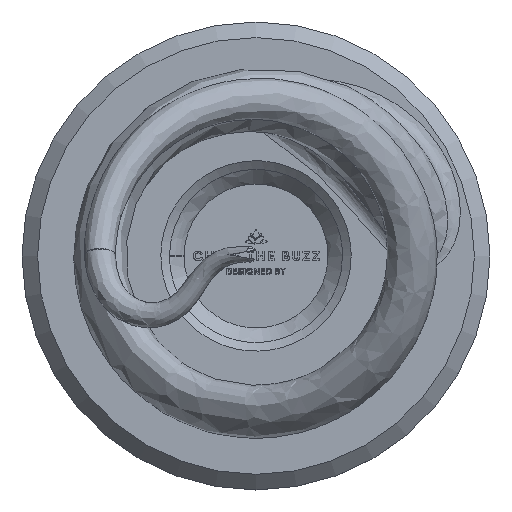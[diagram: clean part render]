
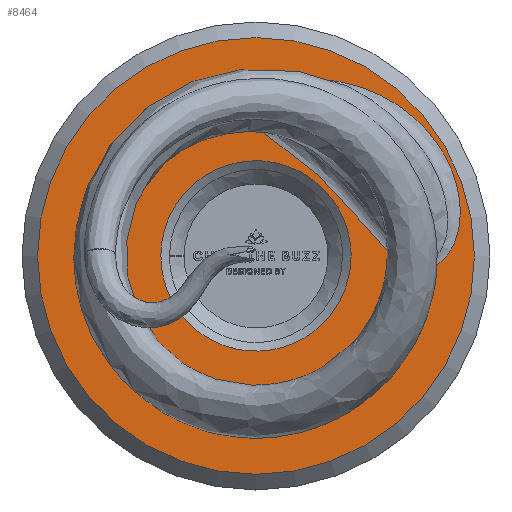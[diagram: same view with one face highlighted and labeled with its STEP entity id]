
A CAD part, top view. The second image highlights one B-rep face of the part: STEP entity #8464.
In plain terms, the highlighted planar face has unit normal (0, 0, 1).
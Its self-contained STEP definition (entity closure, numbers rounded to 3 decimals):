
#18=CIRCLE('',#8750,70.);
#30=FACE_BOUND('',#3410,.T.);
#31=FACE_BOUND('',#3411,.T.);
#313=PLANE('',#8749);
#2950=FACE_OUTER_BOUND('',#3409,.T.);
#3409=EDGE_LOOP('',(#7587));
#3410=EDGE_LOOP('',(#7588));
#3411=EDGE_LOOP('',(#7589));
#3463=B_SPLINE_CURVE_WITH_KNOTS('',3,(#15421,#15422,#15423,#15424,#15425,
#15426,#15427,#15428,#15429,#15430,#15431,#15432,#15433,#15434,#15435,#15436,
#15437,#15438,#15439,#15440,#15441,#15442,#15443,#15444,#15445,#15446,#15447,
#15448,#15449,#15450,#15451,#15452,#15453,#15454,#15455,#15456,#15457,#15458,
#15459,#15460,#15461,#15462,#15463,#15464,#15465,#15466,#15467,#15468,#15469,
#15470,#15471,#15472,#15473,#15474,#15475,#15476),.UNSPECIFIED.,.T.,.F.,
(4,1,1,1,1,1,1,1,1,1,1,1,1,1,1,1,1,1,2,1,1,1,2,1,1,1,1,1,1,1,1,1,1,1,1,
1,1,1,1,1,1,1,1,2,1,1,1,2,1,4),(-14.851,-14.51,-14.169,
-13.827,-13.486,-13.315,-13.144,
-12.974,-12.803,-12.632,-12.461,
-12.12,-11.779,-11.437,-11.096,
-10.754,-10.413,-9.73,-9.389,
-8.558,-7.726,-7.311,-6.064,
-5.571,-5.078,-4.832,-4.585,
-4.339,-4.216,-4.093,-3.969,
-3.908,-3.846,-3.784,-3.723,
-3.661,-3.6,-3.476,-3.353,
-3.23,-3.107,-2.86,-2.614,
-2.121,-1.66,-1.198,-0.737,
-0.275,0.107,0.488),.UNSPECIFIED.);
#3470=B_SPLINE_CURVE_WITH_KNOTS('',3,(#16305,#16306,#16307,#16308,#16309,
#16310,#16311,#16312,#16313,#16314,#16315,#16316,#16317,#16318,#16319,#16320,
#16321,#16322,#16323,#16324,#16325,#16326,#16327,#16328,#16329,#16330,#16331,
#16332,#16333,#16334,#16335,#16336,#16337,#16338,#16339,#16340,#16341,#16342,
#16343),.UNSPECIFIED.,.T.,.F.,(4,2,3,2,2,2,2,2,2,2,2,2,2,2,2,2,2,2,4),(17.978,
18.546,19.221,20.412,21.604,22.795,
23.987,25.178,26.369,27.561,28.752,
29.944,31.135,32.327,33.518,34.71,
35.901,37.092,37.199),.UNSPECIFIED.);
#4293=VERTEX_POINT('',#15419);
#4298=VERTEX_POINT('',#16302);
#4299=VERTEX_POINT('',#16304);
#5509=EDGE_CURVE('',#4293,#4293,#3463,.T.);
#5516=EDGE_CURVE('',#4298,#4298,#18,.T.);
#5517=EDGE_CURVE('',#4299,#4299,#3470,.T.);
#7587=ORIENTED_EDGE('',*,*,#5516,.F.);
#7588=ORIENTED_EDGE('',*,*,#5517,.T.);
#7589=ORIENTED_EDGE('',*,*,#5509,.F.);
#8464=ADVANCED_FACE('',(#2950,#30,#31),#313,.T.);
#8749=AXIS2_PLACEMENT_3D('',#16301,#10096,#10097);
#8750=AXIS2_PLACEMENT_3D('',#16303,#10098,#10099);
#10096=DIRECTION('center_axis',(0.,0.,1.));
#10097=DIRECTION('ref_axis',(1.,0.,0.));
#10098=DIRECTION('center_axis',(0.,0.,-1.));
#10099=DIRECTION('ref_axis',(1.,0.,0.));
#15419=CARTESIAN_POINT('',(35.425,9.229,10.));
#15421=CARTESIAN_POINT('Ctrl Pts',(35.425,9.229,10.));
#15422=CARTESIAN_POINT('Ctrl Pts',(36.344,8.115,10.));
#15423=CARTESIAN_POINT('Ctrl Pts',(38.18,5.893,10.));
#15424=CARTESIAN_POINT('Ctrl Pts',(41.03,2.657,10.));
#15425=CARTESIAN_POINT('Ctrl Pts',(44.142,-0.364,
10.));
#15426=CARTESIAN_POINT('Ctrl Pts',(47.112,-2.46,10.));
#15427=CARTESIAN_POINT('Ctrl Pts',(49.779,-3.597,10.));
#15428=CARTESIAN_POINT('Ctrl Pts',(51.903,-4.074,10.));
#15429=CARTESIAN_POINT('Ctrl Pts',(54.084,-4.086,10.));
#15430=CARTESIAN_POINT('Ctrl Pts',(56.209,-3.595,10.));
#15431=CARTESIAN_POINT('Ctrl Pts',(58.169,-2.643,10.));
#15432=CARTESIAN_POINT('Ctrl Pts',(60.473,-0.877,
10.));
#15433=CARTESIAN_POINT('Ctrl Pts',(62.704,2.013,10.));
#15434=CARTESIAN_POINT('Ctrl Pts',(64.419,6.018,10.));
#15435=CARTESIAN_POINT('Ctrl Pts',(65.327,10.271,10.));
#15436=CARTESIAN_POINT('Ctrl Pts',(65.546,14.61,10.));
#15437=CARTESIAN_POINT('Ctrl Pts',(65.17,18.934,10.));
#15438=CARTESIAN_POINT('Ctrl Pts',(63.963,24.595,10.));
#15439=CARTESIAN_POINT('Ctrl Pts',(61.812,29.993,10.));
#15440=CARTESIAN_POINT('Ctrl Pts',(59.616,33.731,10.));
#15441=CARTESIAN_POINT('Ctrl Pts',(56.896,37.881,10.));
#15442=CARTESIAN_POINT('Ctrl Pts',(52.341,43.297,10.));
#15443=CARTESIAN_POINT('Ctrl Pts',(45.307,48.654,10.));
#15444=CARTESIAN_POINT('Ctrl Pts',(36.004,53.651,10.));
#15445=CARTESIAN_POINT('Ctrl Pts',(29.174,55.665,10.));
#15446=CARTESIAN_POINT('Ctrl Pts',(21.867,56.553,10.));
#15447=CARTESIAN_POINT('Ctrl Pts',(17.695,56.778,10.));
#15448=CARTESIAN_POINT('Ctrl Pts',(12.487,56.287,10.));
#15449=CARTESIAN_POINT('Ctrl Pts',(8.424,55.335,10.));
#15450=CARTESIAN_POINT('Ctrl Pts',(5.469,54.295,10.));
#15451=CARTESIAN_POINT('Ctrl Pts',(3.142,53.103,10.));
#15452=CARTESIAN_POINT('Ctrl Pts',(1.438,51.896,10.));
#15453=CARTESIAN_POINT('Ctrl Pts',(0.278,50.843,10.));
#15454=CARTESIAN_POINT('Ctrl Pts',(-0.543,49.823,10.));
#15455=CARTESIAN_POINT('Ctrl Pts',(-1.063,48.918,10.));
#15456=CARTESIAN_POINT('Ctrl Pts',(-1.368,48.196,10.));
#15457=CARTESIAN_POINT('Ctrl Pts',(-1.573,47.44,10.));
#15458=CARTESIAN_POINT('Ctrl Pts',(-1.666,46.661,10.));
#15459=CARTESIAN_POINT('Ctrl Pts',(-1.64,45.878,10.));
#15460=CARTESIAN_POINT('Ctrl Pts',(-1.454,44.848,10.));
#15461=CARTESIAN_POINT('Ctrl Pts',(-0.972,43.629,
10.));
#15462=CARTESIAN_POINT('Ctrl Pts',(-0.128,42.307,10.));
#15463=CARTESIAN_POINT('Ctrl Pts',(0.877,41.106,10.));
#15464=CARTESIAN_POINT('Ctrl Pts',(2.352,39.631,10.));
#15465=CARTESIAN_POINT('Ctrl Pts',(4.346,37.955,10.));
#15466=CARTESIAN_POINT('Ctrl Pts',(7.672,35.437,10.));
#15467=CARTESIAN_POINT('Ctrl Pts',(10.21,33.612,10.));
#15468=CARTESIAN_POINT('Ctrl Pts',(13.447,31.199,10.));
#15469=CARTESIAN_POINT('Ctrl Pts',(16.544,28.82,10.));
#15470=CARTESIAN_POINT('Ctrl Pts',(20.997,25.013,10.));
#15471=CARTESIAN_POINT('Ctrl Pts',(25.217,20.948,10.));
#15472=CARTESIAN_POINT('Ctrl Pts',(27.873,18.084,10.));
#15473=CARTESIAN_POINT('Ctrl Pts',(30.244,15.419,10.));
#15474=CARTESIAN_POINT('Ctrl Pts',(32.346,12.97,10.));
#15475=CARTESIAN_POINT('Ctrl Pts',(34.398,10.475,10.));
#15476=CARTESIAN_POINT('Ctrl Pts',(35.425,9.229,10.));
#16301=CARTESIAN_POINT('Origin',(0.,0.,10.));
#16302=CARTESIAN_POINT('',(-70.,0.,10.));
#16303=CARTESIAN_POINT('Origin',(0.,0.,10.));
#16304=CARTESIAN_POINT('',(30.499,0.,10.));
#16305=CARTESIAN_POINT('Ctrl Pts',(30.499,0.,
10.));
#16306=CARTESIAN_POINT('Ctrl Pts',(30.499,-1.892,10.));
#16307=CARTESIAN_POINT('Ctrl Pts',(30.323,-3.781,10.));
#16308=CARTESIAN_POINT('Ctrl Pts',(29.557,-7.852,10.));
#16309=CARTESIAN_POINT('Ctrl Pts',(28.898,-10.01,10.));
#16310=CARTESIAN_POINT('Ctrl Pts',(28.008,-12.074,10.));
#16311=CARTESIAN_POINT('Ctrl Pts',(26.435,-15.721,10.));
#16312=CARTESIAN_POINT('Ctrl Pts',(24.166,-19.026,10.));
#16313=CARTESIAN_POINT('Ctrl Pts',(18.487,-24.581,10.));
#16314=CARTESIAN_POINT('Ctrl Pts',(15.133,-26.776,10.));
#16315=CARTESIAN_POINT('Ctrl Pts',(7.771,-29.759,10.));
#16316=CARTESIAN_POINT('Ctrl Pts',(3.834,-30.517,10.));
#16317=CARTESIAN_POINT('Ctrl Pts',(-4.109,-30.481,
10.));
#16318=CARTESIAN_POINT('Ctrl Pts',(-8.039,-29.688,
10.));
#16319=CARTESIAN_POINT('Ctrl Pts',(-15.373,-26.639,
10.));
#16320=CARTESIAN_POINT('Ctrl Pts',(-18.708,-24.413,
10.));
#16321=CARTESIAN_POINT('Ctrl Pts',(-24.336,-18.808,
10.));
#16322=CARTESIAN_POINT('Ctrl Pts',(-26.576,-15.483,
10.));
#16323=CARTESIAN_POINT('Ctrl Pts',(-29.654,-8.161,
10.));
#16324=CARTESIAN_POINT('Ctrl Pts',(-30.464,-4.234,
10.));
#16325=CARTESIAN_POINT('Ctrl Pts',(-30.533,3.708,10.));
#16326=CARTESIAN_POINT('Ctrl Pts',(-29.791,7.648,10.));
#16327=CARTESIAN_POINT('Ctrl Pts',(-26.839,15.022,10.));
#16328=CARTESIAN_POINT('Ctrl Pts',(-24.657,18.386,10.));
#16329=CARTESIAN_POINT('Ctrl Pts',(-19.126,24.087,10.));
#16330=CARTESIAN_POINT('Ctrl Pts',(-15.83,26.37,10.));
#16331=CARTESIAN_POINT('Ctrl Pts',(-8.55,29.545,10.));
#16332=CARTESIAN_POINT('Ctrl Pts',(-4.634,30.406,10.));
#16333=CARTESIAN_POINT('Ctrl Pts',(3.307,30.579,10.));
#16334=CARTESIAN_POINT('Ctrl Pts',(7.257,29.889,10.));
#16335=CARTESIAN_POINT('Ctrl Pts',(14.669,27.034,10.));
#16336=CARTESIAN_POINT('Ctrl Pts',(18.061,24.896,10.));
#16337=CARTESIAN_POINT('Ctrl Pts',(23.834,19.441,10.));
#16338=CARTESIAN_POINT('Ctrl Pts',(26.16,16.175,10.));
#16339=CARTESIAN_POINT('Ctrl Pts',(29.43,8.937,10.));
#16340=CARTESIAN_POINT('Ctrl Pts',(30.342,5.032,10.));
#16341=CARTESIAN_POINT('Ctrl Pts',(30.493,0.709,10.));
#16342=CARTESIAN_POINT('Ctrl Pts',(30.499,0.354,10.));
#16343=CARTESIAN_POINT('Ctrl Pts',(30.499,0.,
10.));
